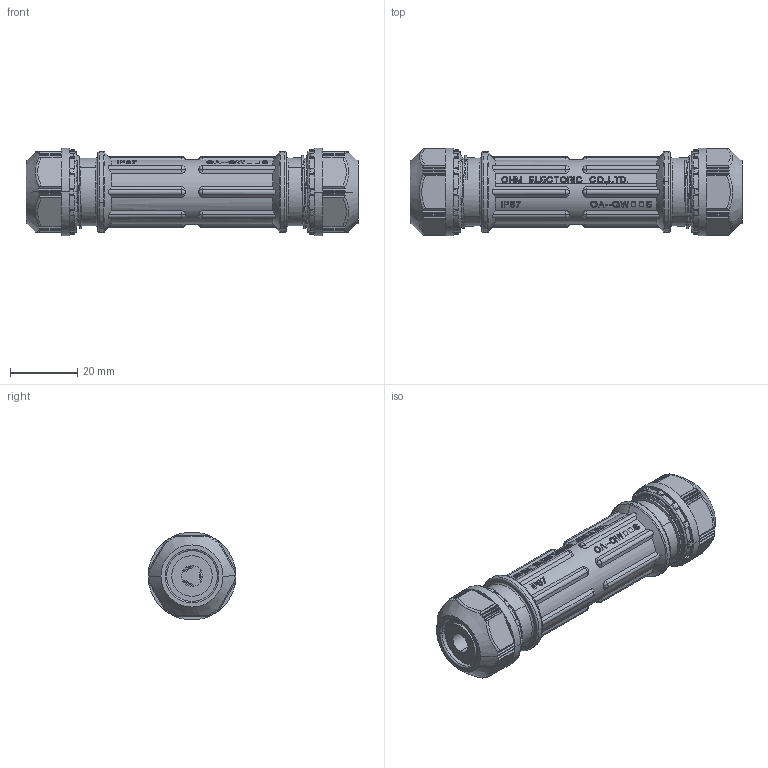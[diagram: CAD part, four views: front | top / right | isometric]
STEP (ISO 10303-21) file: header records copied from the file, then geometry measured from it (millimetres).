
FILE_DESCRIPTION(('Creo Elements/Direct Modeling STEP Export'),'2;1');
FILE_NAME('H05-0002-CL913_OA-QW0911S-3.stp','2013-07-24T13:11:02',(''),(''),'Creo Elements/Direct Modeling STEP processor for AP214 (Solid Model)','Creo Elements/Direct Modeling 18.1B 29-Sep-2012 (C) Parametric Technology GmbH','');
FILE_SCHEMA(('AUTOMOTIVE_DESIGN { 1 0 10303 214 1 1 1 1 }'));
Products named in the file (22): OA-QW_本体; G13-11_R; R側; G13-09B_L; G13-09A_L; G13-09_L; L側; QW-J3本体_ゲージ付; Ｍ3.5_ねじA; M3.5_ナットA; M3.5_バネ座金A; A; Ｍ3.5_ねじC; M3.5_ナットC; M3.5_バネ座金C; C; Ｍ3.5_ねじB; M3.5_ナットB; M3.5_バネ座金B; B; QW-J3; OA-QW0911S-3
Assembly tree (21 placements, depth 4):
  OA-QW0911S-3
    QW-J3
      B
        M3.5_バネ座金B
        M3.5_ナットB
        Ｍ3.5_ねじB
      C
        M3.5_バネ座金C
        M3.5_ナットC
        Ｍ3.5_ねじC
      A
        M3.5_バネ座金A
        M3.5_ナットA
        Ｍ3.5_ねじA
      QW-J3本体_ゲージ付
    L側
      G13-09_L
        G13-09A_L
        G13-09B_L
    R側
      G13-11_R
    OA-QW_本体
Bounding box: 98.4 x 26 x 26 mm (x, y, z)
Volume: 25790.9 mm3; surface area: 22418.1 mm2
Topology: 14 solids, 14 shells, 2522 faces, 6766 edges, 4319 vertices
Faces by surface type: plane 1627, cylinder 544, torus 115, cone 108, bspline 96, sphere 32
Entity records: 95278 total; most frequent: CARTESIAN_POINT 33279, ORIENTED_EDGE 13480, DIRECTION 11924, EDGE_CURVE 6740, VERTEX_POINT 4319, AXIS2_PLACEMENT_3D 4034, VECTOR 3856, LINE 3856
